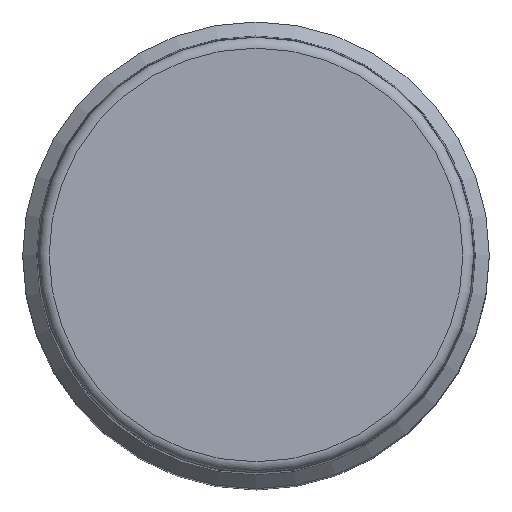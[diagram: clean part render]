
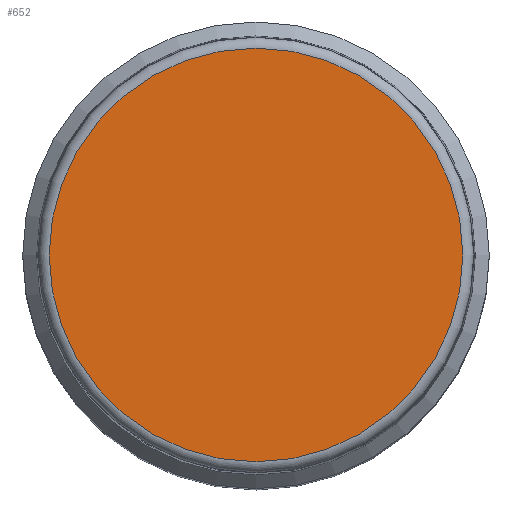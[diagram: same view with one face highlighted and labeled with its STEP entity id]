
A CAD part, top view. The second image highlights one B-rep face of the part: STEP entity #652.
In plain terms, the highlighted planar face has unit normal (0, 0, 1).
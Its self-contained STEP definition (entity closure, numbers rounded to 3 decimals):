
#131=FACE_OUTER_BOUND('',#186,.T.);
#186=EDGE_LOOP('',(#531));
#230=CIRCLE('',#733,13.206);
#302=VERTEX_POINT('',#1086);
#397=EDGE_CURVE('',#302,#302,#230,.T.);
#531=ORIENTED_EDGE('',*,*,#397,.T.);
#590=PLANE('',#734);
#652=ADVANCED_FACE('',(#131),#590,.T.);
#733=AXIS2_PLACEMENT_3D('',#1087,#890,#891);
#734=AXIS2_PLACEMENT_3D('',#1088,#892,#893);
#890=DIRECTION('center_axis',(0.,0.,1.));
#891=DIRECTION('ref_axis',(1.,0.,0.));
#892=DIRECTION('center_axis',(0.,0.,1.));
#893=DIRECTION('ref_axis',(1.,0.,0.));
#1086=CARTESIAN_POINT('',(-13.206,0.,54.));
#1087=CARTESIAN_POINT('Origin',(0.,0.,54.));
#1088=CARTESIAN_POINT('Origin',(0.,0.,54.));
